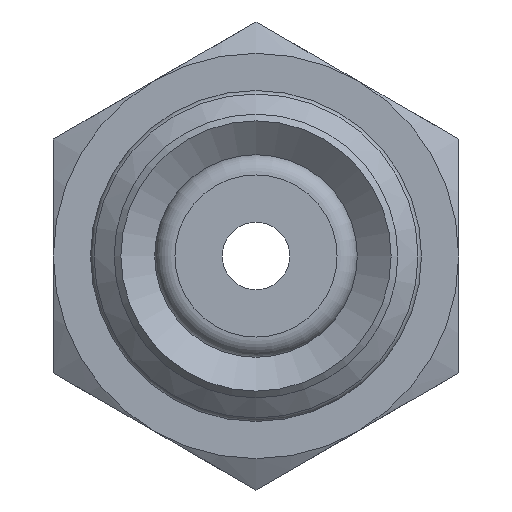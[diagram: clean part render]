
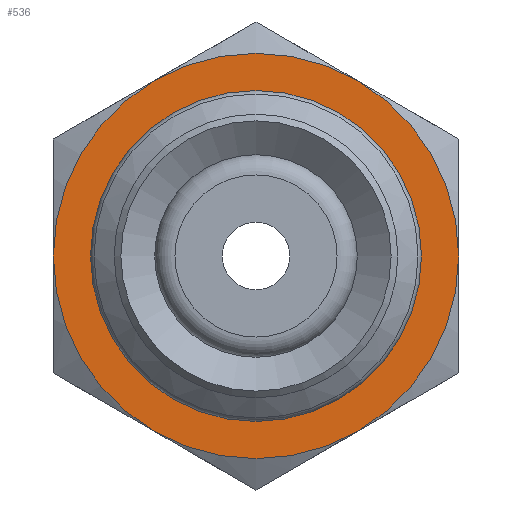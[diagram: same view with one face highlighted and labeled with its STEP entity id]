
A CAD part, front view. The second image highlights one B-rep face of the part: STEP entity #536.
In plain terms, the highlighted planar face has unit normal (0, -1, 0) as drawn and (0, 0, 1) by its records, which use the part's own axes.
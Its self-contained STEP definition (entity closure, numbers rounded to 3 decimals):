
#536=ADVANCED_FACE('',(#712,#713),#714,.T.);
#712=FACE_BOUND('',#1054,.T.);
#713=FACE_OUTER_BOUND('',#1055,.T.);
#714=PLANE('',#1056);
#1054=EDGE_LOOP('',(#1566));
#1055=EDGE_LOOP('',(#1567,#1568,#1569,#1570,#1571,#1572));
#1056=AXIS2_PLACEMENT_3D('',#1573,#1574,#1575);
#1566=ORIENTED_EDGE('',*,*,#2219,.T.);
#1567=ORIENTED_EDGE('',*,*,#2220,.T.);
#1568=ORIENTED_EDGE('',*,*,#2196,.T.);
#1569=ORIENTED_EDGE('',*,*,#2218,.T.);
#1570=ORIENTED_EDGE('',*,*,#2188,.T.);
#1571=ORIENTED_EDGE('',*,*,#2221,.T.);
#1572=ORIENTED_EDGE('',*,*,#2207,.T.);
#1573=CARTESIAN_POINT('',(-6.928,-6.0,3.0));
#1574=DIRECTION('',(0.0,0.0,1.0));
#1575=DIRECTION('',(1.0,0.0,0.0));
#2188=EDGE_CURVE('',#2431,#2422,#2432,.T.);
#2196=EDGE_CURVE('',#2446,#2437,#2447,.T.);
#2207=EDGE_CURVE('',#2465,#2456,#2466,.T.);
#2218=EDGE_CURVE('',#2437,#2431,#2481,.T.);
#2219=EDGE_CURVE('',#2482,#2482,#2483,.T.);
#2220=EDGE_CURVE('',#2456,#2446,#2484,.T.);
#2221=EDGE_CURVE('',#2422,#2465,#2485,.T.);
#2422=VERTEX_POINT('',#2869);
#2431=VERTEX_POINT('',#2891);
#2432=CIRCLE('',#2892,6.0);
#2437=VERTEX_POINT('',#2900);
#2446=VERTEX_POINT('',#2926);
#2447=CIRCLE('',#2927,6.0);
#2456=VERTEX_POINT('',#2949);
#2465=VERTEX_POINT('',#2971);
#2466=CIRCLE('',#2972,6.0);
#2481=CIRCLE('',#3009,6.0);
#2482=VERTEX_POINT('',#3010);
#2483=CIRCLE('',#3011,3.925);
#2484=CIRCLE('',#3012,6.0);
#2485=CIRCLE('',#3013,6.0);
#2869=CARTESIAN_POINT('',(-5.196,-3.0,3.0));
#2891=CARTESIAN_POINT('',(-5.196,3.0,3.0));
#2892=AXIS2_PLACEMENT_3D('',#3355,#3356,#3357);
#2900=CARTESIAN_POINT('',(0.,6.0,3.0));
#2926=CARTESIAN_POINT('',(5.196,3.0,3.0));
#2927=AXIS2_PLACEMENT_3D('',#3360,#3361,#3362);
#2949=CARTESIAN_POINT('',(5.196,-3.0,3.0));
#2971=CARTESIAN_POINT('',(0.,-6.0,3.0));
#2972=AXIS2_PLACEMENT_3D('',#3365,#3366,#3367);
#3009=AXIS2_PLACEMENT_3D('',#3380,#3381,#3382);
#3010=CARTESIAN_POINT('',(3.925,0.0,3.0));
#3011=AXIS2_PLACEMENT_3D('',#3383,#3384,#3385);
#3012=AXIS2_PLACEMENT_3D('',#3386,#3387,#3388);
#3013=AXIS2_PLACEMENT_3D('',#3389,#3390,#3391);
#3355=CARTESIAN_POINT('',(0.,0.0,3.0));
#3356=DIRECTION('',(0.0,0.,1.0));
#3357=DIRECTION('',(0.0,-1.0,0.));
#3360=CARTESIAN_POINT('',(0.,0.0,3.0));
#3361=DIRECTION('',(0.0,0.,1.0));
#3362=DIRECTION('',(0.0,-1.0,0.));
#3365=CARTESIAN_POINT('',(0.,0.0,3.0));
#3366=DIRECTION('',(0.0,0.,1.0));
#3367=DIRECTION('',(0.0,-1.0,0.));
#3380=CARTESIAN_POINT('',(0.,0.0,3.0));
#3381=DIRECTION('',(0.0,0.,1.0));
#3382=DIRECTION('',(0.0,-1.0,0.));
#3383=CARTESIAN_POINT('',(0.0,0.0,3.0));
#3384=DIRECTION('',(0.0,0.0,-1.0));
#3385=DIRECTION('',(1.0,0.0,0.0));
#3386=CARTESIAN_POINT('',(0.,0.0,3.0));
#3387=DIRECTION('',(0.0,0.,1.0));
#3388=DIRECTION('',(0.0,-1.0,0.));
#3389=CARTESIAN_POINT('',(0.,0.0,3.0));
#3390=DIRECTION('',(0.0,0.,1.0));
#3391=DIRECTION('',(0.0,-1.0,0.));
